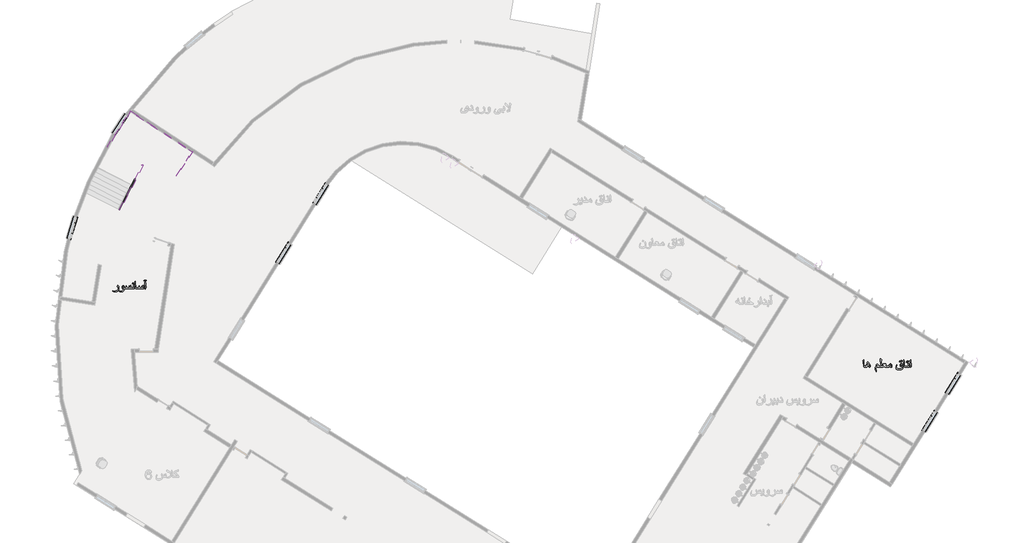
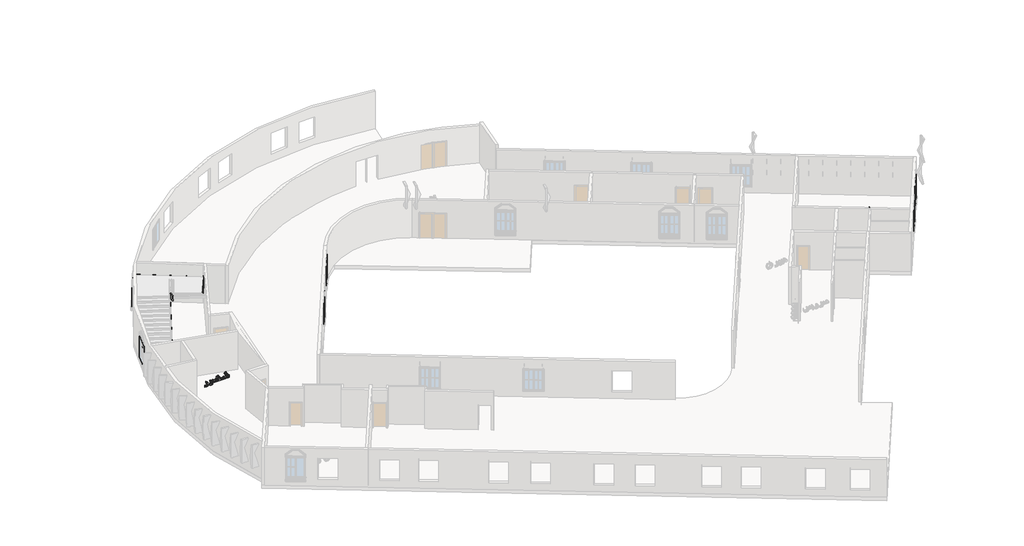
# One storey, part 10 of 12: 25 proxies, 6 members.
"""IFC4 building model written with IfcOpenShell, lengths in millimetres."""

from ifc_helpers import new_model, si_unit, point, frame, frame_2d, origin, origin_with_axes, place, context, project, spatial, polyline, circle_curve, trimmed, segment, composite_curve, outline, extrude, faceted_brep, transform, mapped, element, save
from components import m_muntin_pattern_2x2_m_muntin_pattern_2x2_d2d4b859, m_muntin_pattern_2x2_m_muntin_pattern_2x2_f3921bb5, m_trim_window_exterior_flat_with_sill_136e302d, m_trim_window_exterior_flat_with_sill_88aaac3a, m_trim_window_interior_flat_picture_frame_c6c50358, m_trim_window_interior_flat_picture_frame_896fcfd1

model = new_model("IFC4")

# Units and contexts
model_context = context("Model", 3, world=origin())
ifc_project = project(units=[si_unit("LENGTHUNIT", "METRE", prefix="MILLI")], contexts=[model_context])

# Site, building, storey
site = spatial("IfcSite", under=ifc_project)
building = spatial("IfcBuilding", under=site)
storey = spatial("IfcBuildingStorey", under=building, Name="\u200fهمکف", Elevation=0.0)

# Proxies
placement = place(None, origin())
element("IfcBuildingElementProxy", 1, Name="600mm Arial", ObjectType="600mm Arial", at=placement, inside=storey, context=model_context, shape_type="SweptSolid", body=[
    extrude(outline(polyline([(56388.7753031, -36264.6025631), (56385.1700596, -36289.471386), (56374.3543289, -36316.9889592), (56358.6457677, -36340.4966187), (56350.8190783, -36346.3735336), (56343.0107829, -36348.3325052), (56319.429547, -36344.1386504), (56281.6480661, -36331.5570862), (56211.750487, -36301.2436098), (56142.2943664, -36338.0318093), (56112.2751955, -36345.7573312), (56077.2528296, -36348.3325052), (56068.5708145, -36348.3325052), (56040.3174773, -36348.3325052), (56012.9470568, -36348.3325052), (55988.6668452, -36342.7774871), (55969.6841342, -36326.1124327), (55957.1393582, -36302.0897384), (55948.0526729, -36268.5756886), (55936.7219074, -36174.3978979), (55931.7922887, -36080.9558711), (55925.02326, -36008.2623889), (55913.7660709, -35967.7953694), (55903.3917987, -35949.6955752), (55889.6330121, -35933.9502258), (55941.430797, -35858.6079932), (55951.8418574, -35910.6265073), (55958.6476744, -35971.9156477), (55964.9752447, -36166.304494), (55973.9883536, -36223.9883908), (55986.3124004, -36256.3620064), (55998.2685652, -36268.833206), (56011.1812233, -36272.9902726), (56040.3174773, -36272.9902726), (56068.5708145, -36272.9902726), (56077.3999824, -36272.9902726), (56109.9207508, -36269.9000638), (56152.3007566, -36258.5692984), (56128.4620033, -36241.9410322), (56118.8602833, -36231.4196071), (56115.6597099, -36221.0453349), (56116.2483211, -36210.4503334), (56121.8401274, -36197.64804), (56163.1900637, -36123.9244881), (56178.3468019, -36103.1759436), (56197.3295128, -36094.0524701), (56178.1260727, -36077.5713567), (56171.724926, -36066.6820497), (56188.0588866, -36024.4491966), (56205.1286111, -35990.4569003), (56271.0530647, -36062.4146185), (56315.9714563, -36118.6637756), (56350.3684228, -36168.511786), (56379.173583, -36223.5101442), (56386.3748731, -36245.7945961), (56388.7753031, -36264.6025631)]), holes=[polyline([(56247.508617, -36180.2840098), (56245.7059952, -36164.9065424), (56240.2981299, -36153.207895), (56229.3720346, -36144.1579979), (56213.3691678, -36141.1413655), (56195.4533147, -36144.1947861), (56178.7882603, -36153.3550478), (56166.758519, -36166.8195288), (56162.7486053, -36182.7856074), (56165.8112229, -36191.6055782), (56174.9990757, -36201.7315301), (56211.750487, -36225.9013772), (56237.5022267, -36204.2699159), (56245.0070194, -36192.313751), (56247.508617, -36180.2840098)]), polyline([(56341.6864077, -36262.1009655), (56336.1313896, -36246.3188279), (56319.4663352, -36223.6940852), (56285.1797333, -36188.3774137), (56283.2299587, -36208.8500467), (56277.380635, -36227.88794), (56267.9996441, -36244.1299301), (56255.4548681, -36256.2148536), (56302.838069, -36268.5756886), (56330.6499479, -36272.9902726), (56338.5226226, -36269.8264874), (56341.6864077, -36262.1009655)])]), origin_with_axes(), (0.0, 0.0, 1.0), 150.0),
    extrude(outline(polyline([(57792.0243855, -36348.3325052), (57749.7915325, -36348.3325052), (57720.8760077, -36344.984779), (57688.5759685, -36334.9416006), (57651.4934634, -36316.2899834), (57619.1198478, -36291.8258307), (57595.0419712, -36318.7547928), (57570.485848, -36335.9716702), (57540.0068247, -36345.2422964), (57498.1602478, -36348.3325052), (57462.4021178, -36348.3325052), (57434.1487806, -36348.3325052), (57403.6881514, -36348.3325052), (57377.5685298, -36344.984779), (57351.0074497, -36334.9416006), (57323.4530883, -36315.7749486), (57304.6543183, -36290.3543028), (57274.8558767, -36313.3469275), (57241.0843095, -36330.5270166), (57194.510449, -36343.8811331), (57141.9033236, -36348.3325052), (57132.7798502, -36348.3325052), (57104.5265129, -36348.3325052), (56963.2598268, -36348.3325052), (56935.0064896, -36348.3325052), (56915.729473, -36348.3325052), (56853.6677804, -36351.5330786), (56799.9202209, -36361.1347986), (56772.4946182, -36370.1111193), (56752.9049019, -36380.8532736), (56741.1510722, -36393.3612614), (56737.233129, -36407.6350828), (56739.5323914, -36435.9252082), (56746.4301788, -36466.0547437), (56765.265737, -36529.0361412), (56772.4946182, -36559.607135), (56774.9042453, -36587.4558021), (56771.8140365, -36616.0770213), (56760.7775766, -36649.7014356), (56741.0591017, -36580.245315), (56713.5415285, -36480.3285651), (56699.5620126, -36416.0227923), (56705.0434544, -36368.6947736), (56711.8952565, -36349.7074642), (56721.4877796, -36333.8379546), (56733.922191, -36320.4516485), (56749.2996584, -36308.9139494), (56788.8837611, -36291.3843723), (56833.9493055, -36281.3411939), (56897.3353733, -36272.9902726), (56865.6975217, -36242.088185), (56844.9489771, -36229.9480791), (56823.906127, -36225.9013772), (56810.8463162, -36227.7775754), (56798.4486929, -36233.4061699), (56774.9042453, -36254.1547144), (56756.0686871, -36243.2654074), (56768.7606159, -36210.9653682), (56782.9976492, -36185.8758161), (56796.0758541, -36170.4247723), (56810.2944932, -36159.3883125), (56825.6535665, -36152.7664366), (56842.153074, -36150.5591446), (56866.8379559, -36155.8934335), (56891.4492613, -36171.8963003), (56911.8299239, -36193.0127268), (56932.6520448, -36221.0453349), (56963.2598268, -36272.9902726), (57085.6909548, -36272.9902726), (57038.6020594, -35915.9975845), (57019.7665012, -35905.2554302), (57025.6526132, -35851.1767769), (57043.3109489, -35802.1013188), (57057.4376176, -35806.6630555), (57062.9558475, -35827.4116), (57079.5105373, -35842.2740326), (57113.944292, -35858.6079932), (57110.9276597, -35904.3725134), (57103.7907489, -35940.7192545), (57085.6909548, -35933.9502258), (57132.7798502, -36263.7196463), (57132.7798502, -36272.9902726), (57142.0504764, -36272.9902726), (57175.7852554, -36271.1876508), (57206.9448604, -36265.7797855), (57240.7900039, -36254.9272666), (57274.0465363, -36239.145129), (57256.2410477, -36214.7177645), (57241.7097089, -36201.9154711), (57225.4861129, -36197.64804), (57211.8744791, -36201.1797071), (57198.7043037, -36216.4835981), (57189.2865246, -36216.4835981), (57189.2865246, -36191.761928), (57190.8040379, -36170.4707576), (57195.3565775, -36152.8032248), (57202.9441437, -36138.7593296), (57213.5667363, -36128.3390721), (57226.6357442, -36121.5792404), (57243.7698481, -36116.7507892), (57290.2333441, -36112.8880283), (57333.0548083, -36115.978237), (57367.0471047, -36125.2488633), (57384.0432529, -36134.4275191), (57396.1833587, -36145.7766787), (57403.4674222, -36159.296342), (57405.8954434, -36174.9865091), (57402.0694706, -36193.1230914), (57390.5915524, -36211.9218614), (57349.3887689, -36250.7702001), (57358.6410011, -36259.5257916), (57373.742557, -36266.6627023), (57404.1296098, -36272.9902726), (57434.1487806, -36272.9902726), (57462.4021178, -36272.9902726), (57495.805803, -36272.9902726), (57530.5706515, -36268.3549594), (57561.2887981, -36254.44902), (57582.4052247, -36237.0114135), (57601.6086648, -36213.8348478), (57629.0158735, -36180.68868), (57662.0884648, -36152.1778254), (57693.0273406, -36133.0111734), (57721.3910424, -36122.3058074), (57768.4799378, -36200.2967903), (57786.1382736, -36242.823949), (57792.0243855, -36276.5219397), (57792.0243855, -36348.3325052)]), holes=[polyline([(57744.9354901, -36266.9570079), (57727.8657656, -36214.2763062), (57701.8197203, -36169.3947027), (57684.8603603, -36176.3844606), (57670.7704799, -36187.6416497), (57650.7576994, -36216.4835981), (57668.1769118, -36235.8709793), (57691.5926008, -36253.1246448), (57717.2155818, -36266.1844557), (57741.2566702, -36272.9902726), (57744.9354901, -36266.9570079)])]), origin_with_axes(), (0.0, 0.0, 1.0), 150.0),
    extrude(outline(polyline([(58517.1933744, -36366.4322994), (58512.3005439, -36404.3609331), (58497.6220523, -36437.5071008), (58473.1578996, -36465.8708027), (58438.9080858, -36489.4520385), (58400.8506934, -36505.9975313), (58357.0175537, -36517.8157404), (58307.4086667, -36524.9066658), (58252.0240323, -36527.2703076), (58208.7703067, -36525.2193655), (58170.6853232, -36519.0665392), (58137.7690816, -36508.8118285), (58110.0215822, -36494.4552337), (58086.2656023, -36474.424059), (58069.2970453, -36450.0886651), (58059.1159111, -36421.4490517), (58055.7221997, -36388.5052191), (58059.290655, -36338.8411497), (58069.9960211, -36286.6754828), (58085.9253115, -36237.48966), (58107.5199846, -36188.2302609), (58121.6466532, -36195.5879008), (58103.6940118, -36246.0613105), (58089.4201904, -36297.7119427), (58083.9755369, -36350.5397972), (58086.8450165, -36375.2890584), (58095.4534551, -36396.5618348), (58109.800853, -36414.3581263), (58129.8872099, -36428.6779329), (58153.7535543, -36438.8498701), (58182.6782762, -36446.1155395), (58216.6613755, -36450.4749412), (58255.7028522, -36451.928075), (58298.8370162, -36450.1438474), (58339.2120651, -36444.7911643), (58376.8279992, -36435.8700259), (58411.6848182, -36423.3804322), (58445.4839765, -36405.4461849), (58469.6262324, -36384.6056699), (58484.111586, -36360.8588871), (58488.9400372, -36334.2058366), (58487.3949328, -36304.1866658), (58482.0238557, -36285.6454132), (58449.7973929, -36297.0497551), (58417.2766245, -36301.2436098), (58383.6889984, -36297.2336961), (58357.0911301, -36285.2039548), (58344.7302951, -36274.3422389), (58335.9011272, -36261.0341077), (58330.6036265, -36245.2795613), (58328.8377929, -36227.0785996), (58334.8342694, -36182.7856074), (58352.823699, -36140.5527543), (58366.9043823, -36120.20888), (58382.2174704, -36105.6775412), (58398.7629631, -36096.9587379), (58416.5408605, -36094.0524701), (58439.5426823, -36098.1267632), (58459.9877242, -36110.3496425), (58477.8759862, -36130.721108), (58493.2074683, -36159.2411597), (58503.7013022, -36188.0003346), (58511.1968979, -36218.9484075), (58515.6942553, -36252.0853782), (58517.1933744, -36287.4112468), (58517.1933744, -36366.4322994)]), holes=[polyline([(58452.7404489, -36214.423459), (58436.8479467, -36184.9928993), (58423.2363128, -36173.2942519), (58406.5344703, -36169.3947027), (58388.6554053, -36171.5836006), (58376.2209939, -36178.1502942), (58368.9369304, -36188.064714), (58366.5089092, -36200.2967903), (58369.6359061, -36210.9469741), (58379.016897, -36219.0587721), (58392.3710135, -36224.1907259), (58407.4173871, -36225.9013772), (58428.3866608, -36223.0318976), (58452.7404489, -36214.423459)])]), origin_with_axes(), (0.0, 0.0, 1.0), 150.0),
    extrude(outline(polyline([(58470.104479, -35930.8600171), (58440.8210722, -35990.4569003), (58375.9266883, -35955.8759927), (58405.9458591, -35896.2791095), (58470.104479, -35930.8600171)])), origin_with_axes(), (0.0, 0.0, 1.0), 150.0),
    extrude(outline(polyline([(58375.9266883, -35969.2668974), (58346.4961287, -36028.1280166), (58281.7488975, -35993.1056507), (58312.3566795, -35933.9502258), (58375.9266883, -35969.2668974)])), origin_with_axes(), (0.0, 0.0, 1.0), 150.0),
    extrude(outline(polyline([(58912.7400956, -36348.3325052), (58705.5489559, -36348.3325052), (58677.2956187, -36348.3325052), (58649.9251983, -36348.3325052), (58625.6449866, -36342.7774871), (58606.6622756, -36326.1124327), (58594.1174996, -36302.0897384), (58585.0308143, -36268.5756886), (58573.7000489, -36174.3978979), (58568.7704301, -36080.9558711), (58562.0014014, -36008.2623889), (58550.7442124, -35967.7953694), (58540.3699401, -35949.6955752), (58526.6111535, -35933.9502258), (58578.4089384, -35858.6079932), (58588.8199989, -35910.6265073), (58595.6258158, -35971.9156477), (58601.9533861, -36166.304494), (58610.966495, -36223.9883908), (58623.2905418, -36256.3620064), (58635.2467067, -36268.833206), (58648.1593647, -36272.9902726), (58677.2956187, -36272.9902726), (58705.5489559, -36272.9902726), (58884.4867584, -36272.9902726), (58881.8012198, -36231.0885133), (58873.7446041, -36200.4439431), (58860.9790989, -36179.3643048), (58837.397863, -36150.5591446), (58870.3600898, -36075.216912), (58891.5500927, -36109.6874549), (58903.028011, -36135.696712), (58910.3120745, -36179.2907284), (58912.7400956, -36244.4426298), (58912.7400956, -36348.3325052)])), origin_with_axes(), (0.0, 0.0, 1.0), 150.0),
    extrude(outline(polyline([(58903.3223166, -35949.6955752), (58874.0389097, -36009.2924584), (58809.1445258, -35974.7115509), (58839.1636966, -35915.1146677), (58903.3223166, -35949.6955752)])), origin_with_axes(), (0.0, 0.0, 1.0), 150.0),
    extrude(outline(polyline([(58809.1445258, -35988.1024555), (58779.7139662, -36046.9635747), (58714.966735, -36011.9412088), (58745.574517, -35952.785784), (58809.1445258, -35988.1024555)])), origin_with_axes(), (0.0, 0.0, 1.0), 150.0),
    extrude(outline(polyline([(59054.0067818, -36245.1783937), (59050.732632, -36276.5955161), (59040.9101827, -36306.9825689), (59011.6267759, -36357.7502843), (59004.269136, -36353.7771587), (59006.108546, -36326.9217731), (59006.9178864, -36306.5411105), (58998.8980589, -36190.2904001), (58979.6946188, -36034.4555869), (58964.5378805, -35933.9502258), (58987.3465642, -35896.4998387), (59011.6267759, -35858.6079932), (59029.3586881, -35983.1728368), (59046.2076835, -36125.6903217), (59054.0067818, -36245.1783937)])), origin_with_axes(), (0.0, 0.0, 1.0), 150.0),
])
element("IfcBuildingElementProxy", 2, Name="600mm Arial", ObjectType="600mm Arial", at=placement, inside=storey, context=model_context, shape_type="SweptSolid", body=[
    extrude(outline(polyline([(7242.398082, -31234.5029931), (7239.9516667, -31257.0725535), (7232.6124209, -31280.0467841), (7220.3803446, -31303.4256849), (7203.2554377, -31327.2092559), (7164.9221338, -31366.499053), (7118.2011204, -31399.9027382), (7074.2024338, -31421.8652933), (7038.7386095, -31429.186145), (7008.8665915, -31427.0524294), (6976.6401287, -31420.6512827), (6915.8660231, -31400.4913493), (6856.2691399, -31377.38836), (6863.1853214, -31361.7901635), (6920.7956418, -31375.2546445), (6975.0214479, -31382.0972496), (7002.0975628, -31380.0738986), (7029.7622888, -31374.0038457), (7058.015626, -31363.8870908), (7086.8575744, -31349.723634), (7135.6939093, -31316.2463724), (7176.8415105, -31274.9700126), (7193.1616755, -31252.9430781), (7204.8189362, -31232.0381838), (7211.8132926, -31212.2553295), (7214.1447448, -31193.5945153), (7209.1047614, -31161.6255699), (7193.9848114, -31128.1115201), (7174.3767011, -31100.0789121), (7148.2202912, -31071.3105401), (7171.7647389, -30995.9683074), (7202.2989445, -31026.870395), (7223.5625239, -31057.7724826), (7237.6891925, -31094.707835), (7242.398082, -31135.7634656), (7242.398082, -31234.5029931)])), origin_with_axes(), (0.0, 0.0, 1.0), 150.0),
    extrude(outline(polyline([(8250.1004432, -31231.4127844), (8042.9093035, -31231.4127844), (8014.6559663, -31231.4127844), (8011.8600631, -31231.4127844), (7987.9293393, -31229.5181921), (7967.6406473, -31223.8344153), (7949.9639174, -31214.6925477), (7933.8690801, -31202.4236831), (7916.2475326, -31215.7410114), (7901.0540062, -31223.6136861), (7876.8105827, -31229.4630098), (7844.9887901, -31231.4127844), (7818.9427448, -31231.4127844), (7798.1574121, -31229.2422806), (7777.298503, -31222.7307693), (7743.747665, -31204.1895167), (7724.562619, -31217.341298), (7707.0330419, -31225.6002488), (7685.0888809, -31229.9596505), (7652.660083, -31231.4127844), (7598.0528404, -31231.4127844), (7597.1742811, -31241.6582979), (7587.8760637, -31277.6923394), (7572.3790346, -31313.6160162), (7550.683194, -31349.4293284), (7522.0251865, -31384.3229357), (7491.2334635, -31409.2469408), (7458.308025, -31424.2013439), (7423.2488708, -31429.186145), (7396.0623914, -31427.1995822), (7368.0665716, -31421.2398939), (7314.0614947, -31401.2271133), (7261.2336402, -31377.38836), (7268.1498217, -31362.820233), (7315.6801754, -31375.4753737), (7360.4146261, -31382.0972496), (7384.740823, -31380.4601747), (7408.4232264, -31375.5489501), (7431.4618364, -31367.3635757), (7453.8566528, -31355.9040515), (7488.2904076, -31330.6305585), (7522.7241623, -31296.0128627), (7572.0203497, -31231.4127844), (7524.0485375, -31226.740683), (7505.2497676, -31220.9005563), (7489.9090884, -31212.724379), (7476.389425, -31200.3359528), (7466.7325227, -31184.50783), (7460.9383812, -31165.2400105), (7459.0070008, -31142.5324943), (7463.9366195, -31099.2695717), (7478.7254757, -31059.2440106), (7490.9115668, -31039.8014472), (7504.6611564, -31025.9139019), (7519.9742444, -31017.5813747), (7536.8508309, -31014.8038656), (7553.4055207, -31017.5721776), (7567.4586129, -31025.8771137), (7579.0101076, -31039.7186737), (7588.0600047, -31059.0968578), (7597.2202664, -31100.5203705), (7600.2736869, -31156.0705517), (7653.8373054, -31156.0705517), (7683.267865, -31154.4886592), (7702.98634, -31149.7429814), (7713.7376913, -31143.1394996), (7721.4172279, -31133.9240556), (7726.0249499, -31122.0966495), (7727.5608572, -31107.6572812), (7726.5307877, -31081.2433539), (7722.7048149, -31051.5920651), (7736.8314835, -31024.2216447), (7755.3727361, -31085.2900559), (7768.9107935, -31114.5366745), (7783.6260733, -31135.46916), (7804.0067358, -31150.9202038), (7828.0662183, -31156.0705517), (7855.1423332, -31156.0705517), (7881.482684, -31153.4585896), (7899.8767838, -31145.6227031), (7912.0168896, -31130.1716593), (7916.0635916, -31107.6572812), (7914.7392164, -31080.2868607), (7911.0603964, -31051.5920651), (7925.1870651, -31024.2216447), (7933.8690801, -31067.4845673), (7946.3034916, -31110.8578545), (7961.2395006, -31138.5593688), (7977.720614, -31151.692756), (7999.2049225, -31156.0705517), (8009.3032832, -31154.1391713), (8017.2311402, -31148.3450298), (8022.3630941, -31139.5342561), (8024.0737454, -31128.5529785), (8019.769526, -31101.6608047), (8006.856868, -31073.3706792), (7986.402629, -31043.0572028), (8009.9470767, -30995.9683074), (8024.5519919, -31021.7200471), (8033.6386772, -31043.645814), (8040.5916469, -31078.9992738), (8042.9093035, -31124.4327002), (8042.9093035, -31156.0705517), (8221.847106, -31156.0705517), (8219.1615674, -31114.1687925), (8211.1049517, -31083.5242223), (8198.3394465, -31062.444584), (8174.7582106, -31033.6394238), (8207.7204373, -30958.2971911), (8228.9104403, -30992.7677341), (8240.3883585, -31018.7769911), (8247.672422, -31062.3710076), (8250.1004432, -31127.5229089), (8250.1004432, -31231.4127844)]), holes=[polyline([(7572.0203497, -31156.0705517), (7562.308265, -31123.5865716), (7550.8303468, -31102.9483916), (7538.7638173, -31093.3466716), (7524.3428431, -31090.1460982), (7513.8949944, -31091.9855082), (7504.9186738, -31097.5037381), (7498.7382562, -31105.8178712), (7496.6781171, -31116.0449907), (7501.092701, -31133.3722326), (7514.3364528, -31145.9170087), (7537.5865949, -31153.532166), (7572.0203497, -31156.0705517)])]), origin_with_axes(), (0.0, 0.0, 1.0), 150.0),
    extrude(outline(polyline([(8212.4293269, -30851.9057181), (8181.8215449, -30911.2082958), (8118.2515361, -30876.774541), (8147.2406373, -30817.030505), (8212.4293269, -30851.9057181)])), origin_with_axes(), (0.0, 0.0, 1.0), 150.0),
    extrude(outline(polyline([(9022.3583275, -31128.2586729), (9019.0841777, -31159.6757953), (9009.2617284, -31190.0628481), (8979.9783216, -31240.8305634), (8972.6206817, -31236.8574379), (8974.4600917, -31210.0020522), (8975.2694321, -31189.6213897), (8967.2496046, -31073.3706792), (8948.0461644, -30917.5358661), (8932.8894262, -30817.030505), (8955.6981099, -30779.5801179), (8979.9783216, -30741.6882724), (8997.7102338, -30866.2531159), (9014.5592292, -31008.7706009), (9022.3583275, -31128.2586729)])), origin_with_axes(), (0.0, 0.0, 1.0), 150.0),
    extrude(outline(polyline([(9041.1938856, -30662.2257614), (9026.7545173, -30680.9693491), (9010.2182216, -30693.9371894), (8990.370988, -30701.4971644), (8965.9988058, -30704.0171561), (8953.0493596, -30702.9135101), (8939.8056077, -30700.1911833), (8911.4051177, -30694.599377), (8897.2784491, -30697.7631622), (8886.3891421, -30704.0171561), (8881.0916413, -30699.4554193), (8897.7199075, -30675.6902424), (8907.5055686, -30668.6820904), (8917.4383824, -30666.3460398), (8928.1805367, -30667.7439913), (8949.811998, -30671.9378461), (8965.9988058, -30674.6601729), (8980.5669328, -30675.7638188), (9009.9974924, -30670.1720125), (9035.8963849, -30656.9282607), (9041.1938856, -30662.2257614)])), origin_with_axes(), (0.0, 0.0, 1.0), 150.0),
    extrude(outline(polyline([(8881.0916413, -31231.4127844), (8850.0424009, -31231.4127844), (8826.1116771, -31229.5181921), (8805.8229851, -31223.8344153), (8788.1462552, -31214.6925477), (8772.0514179, -31202.4236831), (8754.4298704, -31215.7410114), (8739.236344, -31223.6136861), (8714.9929205, -31229.4630098), (8683.1711279, -31231.4127844), (8657.1250827, -31231.4127844), (8636.3397499, -31229.2422806), (8615.4808408, -31222.7307693), (8581.9300028, -31204.1895167), (8562.7449568, -31217.341298), (8545.2153797, -31225.6002488), (8523.2712187, -31229.9596505), (8490.8424208, -31231.4127844), (8438.4560247, -31231.4127844), (8410.2026875, -31231.4127844), (8382.8322671, -31231.4127844), (8358.5520554, -31225.8577662), (8339.5693444, -31209.1927119), (8327.0245684, -31185.1700176), (8317.9378831, -31151.6559678), (8306.6071177, -31057.478177), (8301.6774989, -30964.0361503), (8294.9084702, -30891.342668), (8283.6512812, -30850.8756485), (8273.2770089, -30832.7758544), (8259.5182223, -30817.030505), (8311.3160072, -30741.6882724), (8321.7270677, -30793.7067865), (8328.5328846, -30854.9959269), (8334.8604549, -31049.3847731), (8343.8735638, -31107.06867), (8356.1976106, -31139.4422856), (8368.1537754, -31151.9134852), (8381.0664335, -31156.0705517), (8410.2026875, -31156.0705517), (8438.4560247, -31156.0705517), (8492.0196432, -31156.0705517), (8521.4502028, -31154.4886592), (8541.1686778, -31149.7429814), (8551.9200291, -31143.1394996), (8559.5995657, -31133.9240556), (8564.2072877, -31122.0966495), (8565.7431951, -31107.6572812), (8564.7131255, -31081.2433539), (8560.8871527, -31051.5920651), (8575.0138213, -31024.2216447), (8593.5550739, -31085.2900559), (8607.0931313, -31114.5366745), (8621.8084111, -31135.46916), (8642.1890737, -31150.9202038), (8666.2485561, -31156.0705517), (8693.324671, -31156.0705517), (8719.6650218, -31153.4585896), (8738.0591216, -31145.6227031), (8750.1992274, -31130.1716593), (8754.2459294, -31107.6572812), (8752.9215542, -31080.2868607), (8749.2427342, -31051.5920651), (8763.3694029, -31024.2216447), (8772.0514179, -31067.4845673), (8784.4858294, -31110.8578545), (8799.4218384, -31138.5593688), (8815.9029518, -31151.692756), (8837.3872603, -31156.0705517), (8847.4856211, -31154.1391713), (8855.4134781, -31148.3450298), (8860.5454319, -31139.5342561), (8862.2560832, -31128.5529785), (8857.9518638, -31101.6608047), (8845.0392058, -31073.3706792), (8824.5849669, -31043.0572028), (8848.1294146, -30995.9683074), (8862.7343298, -31021.7200471), (8871.821015, -31043.645814), (8878.7739848, -31078.9992738), (8881.0916413, -31124.4327002), (8881.0916413, -31231.4127844)])), origin_with_axes(), (0.0, 0.0, 1.0), 150.0),
])
m_muntin_pattern_2x2_m_muntin_pattern_2x2_shape = m_muntin_pattern_2x2_m_muntin_pattern_2x2_d2d4b859(model_context)
element("IfcBuildingElementProxy", 3, Name="M_Muntin Pattern_2x2 : M_Muntin Pattern_2x2", ObjectType="M_Muntin Pattern_2x2 : M_Muntin Pattern_2x2", at=placement, inside=storey, context=model_context, shape_type="MappedRepresentation", body=[
    mapped(m_muntin_pattern_2x2_m_muntin_pattern_2x2_shape, transform((7597.6576268, -20231.7702749, 669.85), x_axis=(-0.5493381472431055, -0.8356001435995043, 0.0), y_axis=(0.8356001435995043, -0.5493381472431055, 0.0), z_axis=(0.0, 0.0, 1.0))),
])
element("IfcBuildingElementProxy", 4, Name="M_Muntin Pattern_2x2 : M_Muntin Pattern_2x2", ObjectType="M_Muntin Pattern_2x2 : M_Muntin Pattern_2x2", at=placement, inside=storey, context=model_context, shape_type="MappedRepresentation", body=[
    mapped(m_muntin_pattern_2x2_m_muntin_pattern_2x2_shape, transform((4384.731097, -26924.4898344, 669.85), x_axis=(-0.2820402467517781, -0.959402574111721, 0.0), y_axis=(0.959402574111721, -0.2820402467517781, 0.0), z_axis=(0.0, 0.0, 1.0))),
])
element("IfcBuildingElementProxy", 5, Name="M_Muntin Pattern_2x2 : M_Muntin Pattern_2x2", ObjectType="M_Muntin Pattern_2x2 : M_Muntin Pattern_2x2", at=placement, inside=storey, context=model_context, shape_type="MappedRepresentation", body=[
    mapped(m_muntin_pattern_2x2_m_muntin_pattern_2x2_shape, transform((17759.3599251, -29127.2472624, 669.85), x_axis=(0.5299192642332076, 0.8480480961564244, 0.0), y_axis=(-0.8480480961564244, 0.5299192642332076, 0.0), z_axis=(0.0, 0.0, 1.0))),
])
element("IfcBuildingElementProxy", 6, Name="M_Muntin Pattern_2x2 : M_Muntin Pattern_2x2", ObjectType="M_Muntin Pattern_2x2 : M_Muntin Pattern_2x2", at=placement, inside=storey, context=model_context, shape_type="MappedRepresentation", body=[
    mapped(m_muntin_pattern_2x2_m_muntin_pattern_2x2_shape, transform((20174.2020122, -25262.6920883, 669.85), x_axis=(0.5299192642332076, 0.8480480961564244, 0.0), y_axis=(-0.8480480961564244, 0.5299192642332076, 0.0), z_axis=(0.0, 0.0, 1.0))),
])
element("IfcBuildingElementProxy", 7, Name="M_Muntin Pattern_2x2 : M_Muntin Pattern_2x2", ObjectType="M_Muntin Pattern_2x2 : M_Muntin Pattern_2x2", at=placement, inside=storey, context=model_context, shape_type="MappedRepresentation", body=[
    mapped(m_muntin_pattern_2x2_m_muntin_pattern_2x2_shape, transform((61533.8070281, -37664.4078714, 669.85), x_axis=(0.5299192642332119, 0.8480480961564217, 0.0), y_axis=(-0.8480480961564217, 0.5299192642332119, 0.0), z_axis=(0.0, 0.0, 1.0))),
])
m_muntin_pattern_2x2_m_muntin_pattern_2x2_2_shape = m_muntin_pattern_2x2_m_muntin_pattern_2x2_f3921bb5(model_context)
element("IfcBuildingElementProxy", 8, Name="M_Muntin Pattern_2x2 : M_Muntin Pattern_2x2", ObjectType="M_Muntin Pattern_2x2 : M_Muntin Pattern_2x2", at=placement, inside=storey, context=model_context, shape_type="MappedRepresentation", body=[
    mapped(m_muntin_pattern_2x2_m_muntin_pattern_2x2_2_shape, transform((7214.8650724, -20814.037345, 669.85), x_axis=(0.5493381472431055, 0.8356001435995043, 0.0), y_axis=(-0.8356001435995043, 0.5493381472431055, 0.0), z_axis=(0.0, 0.0, 1.0))),
])
element("IfcBuildingElementProxy", 9, Name="M_Muntin Pattern_2x2 : M_Muntin Pattern_2x2", ObjectType="M_Muntin Pattern_2x2 : M_Muntin Pattern_2x2", at=placement, inside=storey, context=model_context, shape_type="MappedRepresentation", body=[
    mapped(m_muntin_pattern_2x2_m_muntin_pattern_2x2_2_shape, transform((4188.1984021, -27593.0255331, 669.85), x_axis=(0.2820402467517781, 0.959402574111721, 0.0), y_axis=(-0.959402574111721, 0.2820402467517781, 0.0), z_axis=(0.0, 0.0, 1.0))),
])
element("IfcBuildingElementProxy", 10, Name="M_Muntin Pattern_2x2 : M_Muntin Pattern_2x2", ObjectType="M_Muntin Pattern_2x2 : M_Muntin Pattern_2x2", at=placement, inside=storey, context=model_context, shape_type="MappedRepresentation", body=[
    mapped(m_muntin_pattern_2x2_m_muntin_pattern_2x2_2_shape, transform((18128.6209164, -28536.3061478, 669.85), x_axis=(-0.5299192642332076, -0.8480480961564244, 0.0), y_axis=(0.8480480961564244, -0.5299192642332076, 0.0), z_axis=(0.0, 0.0, 1.0))),
])
element("IfcBuildingElementProxy", 11, Name="M_Muntin Pattern_2x2 : M_Muntin Pattern_2x2", ObjectType="M_Muntin Pattern_2x2 : M_Muntin Pattern_2x2", at=placement, inside=storey, context=model_context, shape_type="MappedRepresentation", body=[
    mapped(m_muntin_pattern_2x2_m_muntin_pattern_2x2_2_shape, transform((20543.4630035, -24671.7509736, 669.85), x_axis=(-0.5299192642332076, -0.8480480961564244, 0.0), y_axis=(0.8480480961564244, -0.5299192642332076, 0.0), z_axis=(0.0, 0.0, 1.0))),
])
element("IfcBuildingElementProxy", 12, Name="M_Muntin Pattern_2x2 : M_Muntin Pattern_2x2", ObjectType="M_Muntin Pattern_2x2 : M_Muntin Pattern_2x2", at=placement, inside=storey, context=model_context, shape_type="MappedRepresentation", body=[
    mapped(m_muntin_pattern_2x2_m_muntin_pattern_2x2_2_shape, transform((60366.3021532, -39532.8062357, 669.85), x_axis=(-0.5299192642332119, -0.8480480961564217, 0.0), y_axis=(0.8480480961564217, -0.5299192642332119, 0.0), z_axis=(0.0, 0.0, 1.0))),
])
element("IfcBuildingElementProxy", 13, Name="M_Muntin Pattern_2x2 : M_Muntin Pattern_2x2", ObjectType="M_Muntin Pattern_2x2 : M_Muntin Pattern_2x2", at=placement, inside=storey, context=model_context, shape_type="MappedRepresentation", body=[
    mapped(m_muntin_pattern_2x2_m_muntin_pattern_2x2_2_shape, transform((61903.0680194, -37073.4667568, 669.85), x_axis=(-0.5299192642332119, -0.8480480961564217, 0.0), y_axis=(0.8480480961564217, -0.5299192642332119, 0.0), z_axis=(0.0, 0.0, 1.0))),
])
m_trim_window_exterior_flat_with_sill_shape = m_trim_window_exterior_flat_with_sill_136e302d(model_context)
element("IfcBuildingElementProxy", 14, Name="M_Trim-Window-Exterior-Flat : with Sill", ObjectType="M_Trim-Window-Exterior-Flat : with Sill", at=placement, inside=storey, context=model_context, shape_type="MappedRepresentation", body=[
    mapped(m_trim_window_exterior_flat_with_sill_shape, transform((7414.220441, -20528.1362558, 2400.0), x_axis=(0.5493381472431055, 0.8356001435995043, 0.0), y_axis=(0.0, 0.0, 1.0), z_axis=(0.8356001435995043, -0.5493381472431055, 0.0))),
])
element("IfcBuildingElementProxy", 15, Name="M_Trim-Window-Exterior-Flat : with Sill", ObjectType="M_Trim-Window-Exterior-Flat : with Sill", at=placement, inside=storey, context=model_context, shape_type="MappedRepresentation", body=[
    mapped(m_trim_window_exterior_flat_with_sill_shape, transform((4295.6030591, -27261.4441171, 2400.0), x_axis=(0.2820402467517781, 0.959402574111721, 0.0), y_axis=(0.0, 0.0, 1.0), z_axis=(0.959402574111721, -0.2820402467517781, 0.0))),
])
m_trim_window_exterior_flat_with_sill_2_shape = m_trim_window_exterior_flat_with_sill_88aaac3a(model_context)
element("IfcBuildingElementProxy", 16, Name="M_Trim-Window-Exterior-Flat : with Sill", ObjectType="M_Trim-Window-Exterior-Flat : with Sill", at=placement, inside=storey, context=model_context, shape_type="MappedRepresentation", body=[
    mapped(m_trim_window_exterior_flat_with_sill_2_shape, transform((17935.9127627, -28826.7292241, 2400.0), x_axis=(0.5299192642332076, 0.8480480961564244, 0.0), y_axis=(0.0, 0.0, -1.0), z_axis=(-0.8480480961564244, 0.5299192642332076, 0.0))),
])
element("IfcBuildingElementProxy", 17, Name="M_Trim-Window-Exterior-Flat : with Sill", ObjectType="M_Trim-Window-Exterior-Flat : with Sill", at=placement, inside=storey, context=model_context, shape_type="MappedRepresentation", body=[
    mapped(m_trim_window_exterior_flat_with_sill_2_shape, transform((20350.7548498, -24962.17405, 2400.0), x_axis=(0.5299192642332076, 0.8480480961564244, 0.0), y_axis=(0.0, 0.0, -1.0), z_axis=(-0.8480480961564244, 0.5299192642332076, 0.0))),
])
element("IfcBuildingElementProxy", 18, Name="M_Trim-Window-Exterior-Flat : with Sill", ObjectType="M_Trim-Window-Exterior-Flat : with Sill", at=placement, inside=storey, context=model_context, shape_type="MappedRepresentation", body=[
    mapped(m_trim_window_exterior_flat_with_sill_2_shape, transform((60173.5939994, -39823.229312, 2400.0), x_axis=(0.5299192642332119, 0.8480480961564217, 0.0), y_axis=(0.0, 0.0, -1.0), z_axis=(-0.8480480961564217, 0.5299192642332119, 0.0))),
])
element("IfcBuildingElementProxy", 19, Name="M_Trim-Window-Exterior-Flat : with Sill", ObjectType="M_Trim-Window-Exterior-Flat : with Sill", at=placement, inside=storey, context=model_context, shape_type="MappedRepresentation", body=[
    mapped(m_trim_window_exterior_flat_with_sill_2_shape, transform((61710.3598657, -37363.8898331, 2400.0), x_axis=(0.5299192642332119, 0.8480480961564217, 0.0), y_axis=(0.0, 0.0, -1.0), z_axis=(-0.8480480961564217, 0.5299192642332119, 0.0))),
])
m_trim_window_interior_flat_picture_frame_shape = m_trim_window_interior_flat_picture_frame_c6c50358(model_context)
element("IfcBuildingElementProxy", 20, Name="M_Trim-Window-Interior-Flat : Picture Frame", ObjectType="M_Trim-Window-Interior-Flat : Picture Frame", at=placement, inside=storey, context=model_context, shape_type="MappedRepresentation", body=[
    mapped(m_trim_window_interior_flat_picture_frame_shape, transform((7247.1004122, -20418.2686263, 2400.0), x_axis=(-0.5493381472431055, -0.8356001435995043, 0.0), y_axis=(0.0, 0.0, 1.0), z_axis=(-0.8356001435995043, 0.5493381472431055, 0.0))),
])
element("IfcBuildingElementProxy", 21, Name="M_Trim-Window-Interior-Flat : Picture Frame", ObjectType="M_Trim-Window-Interior-Flat : Picture Frame", at=placement, inside=storey, context=model_context, shape_type="MappedRepresentation", body=[
    mapped(m_trim_window_interior_flat_picture_frame_shape, transform((4103.7225442, -27205.0360677, 2400.0), x_axis=(-0.2820402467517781, -0.959402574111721, 0.0), y_axis=(0.0, 0.0, 1.0), z_axis=(-0.959402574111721, 0.2820402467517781, 0.0))),
])
m_trim_window_interior_flat_picture_frame_2_shape = m_trim_window_interior_flat_picture_frame_896fcfd1(model_context)
element("IfcBuildingElementProxy", 22, Name="M_Trim-Window-Interior-Flat : Picture Frame", ObjectType="M_Trim-Window-Interior-Flat : Picture Frame", at=placement, inside=storey, context=model_context, shape_type="MappedRepresentation", body=[
    mapped(m_trim_window_interior_flat_picture_frame_2_shape, transform((18105.5223819, -28932.713077, 2400.0), x_axis=(-0.5299192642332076, -0.8480480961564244, 0.0), y_axis=(0.0, 0.0, -1.0), z_axis=(0.8480480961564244, -0.5299192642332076, 0.0))),
])
element("IfcBuildingElementProxy", 23, Name="M_Trim-Window-Interior-Flat : Picture Frame", ObjectType="M_Trim-Window-Interior-Flat : Picture Frame", at=placement, inside=storey, context=model_context, shape_type="MappedRepresentation", body=[
    mapped(m_trim_window_interior_flat_picture_frame_2_shape, transform((20520.364469, -25068.1579028, 2400.0), x_axis=(-0.5299192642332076, -0.8480480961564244, 0.0), y_axis=(0.0, 0.0, -1.0), z_axis=(0.8480480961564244, -0.5299192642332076, 0.0))),
])
element("IfcBuildingElementProxy", 24, Name="M_Trim-Window-Interior-Flat : Picture Frame", ObjectType="M_Trim-Window-Interior-Flat : Picture Frame", at=placement, inside=storey, context=model_context, shape_type="MappedRepresentation", body=[
    mapped(m_trim_window_interior_flat_picture_frame_2_shape, transform((60343.2036186, -39929.2131648, 2400.0), x_axis=(-0.5299192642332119, -0.8480480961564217, 0.0), y_axis=(0.0, 0.0, -1.0), z_axis=(0.8480480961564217, -0.5299192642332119, 0.0))),
])
element("IfcBuildingElementProxy", 25, Name="M_Trim-Window-Interior-Flat : Picture Frame", ObjectType="M_Trim-Window-Interior-Flat : Picture Frame", at=placement, inside=storey, context=model_context, shape_type="MappedRepresentation", body=[
    mapped(m_trim_window_interior_flat_picture_frame_2_shape, transform((61879.9694849, -37469.873686, 2400.0), x_axis=(-0.5299192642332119, -0.8480480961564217, 0.0), y_axis=(0.0, 0.0, -1.0), z_axis=(0.8480480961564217, -0.5299192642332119, 0.0))),
])

# Members
element("IfcMember", 26, ObjectType="Stringer - 50mm Width", at=placement, inside=storey, context=model_context, shape_type="SweptSolid", body=[
    extrude(outline(composite_curve([segment(trimmed(circle_curve(frame_2d((28463.2186017, -34366.1157481)), 25200.0), [point((8007.113091, -19649.1953048))], [point((6525.4431115, -21965.5509809))], True, "CARTESIAN"), True, "CONTINUOUS"), segment(polyline([(6525.4431115, -21965.5509809), (6481.9157792, -21940.9466858)]), True, "CONTINUOUS"), segment(trimmed(circle_curve(frame_2d((28463.2186017, -34366.1157481)), 25250.0), [point((6481.9157792, -21940.9466858))], [point((7965.2325341, -19621.7925296))], False, "CARTESIAN"), True, "CONTINUOUS"), segment(polyline([(7965.2325341, -19621.7925296), (8007.113091, -19649.1953048)]), True, "CONTINUOUS")], self_intersect=False)), frame((0.0, 0.0, 1873.6842105), z_axis=(0.0, 0.0, 1.0), x_axis=(1.0, 0.0, 0.0)), (0.0, 0.0, 1.0), 400.0),
])
element("IfcMember", 27, ObjectType="Stringer - 50mm Width", at=placement, inside=storey, context=model_context, shape_type="SweptSolid", body=[
    extrude(outline(composite_curve([segment(trimmed(circle_curve(frame_2d((28419.6912693, -34341.5114529)), 25200.0), [point((7965.4819455, -19621.9557214))], [point((7994.7578384, -19581.3592063))], False, "CARTESIAN"), True, "CONTINUOUS"), segment(polyline([(7994.7578384, -19581.3592063), (12039.8088932, -22228.0676747)]), True, "CONTINUOUS"), segment(trimmed(circle_curve(frame_2d((29284.4488792, -34638.3554793)), 21246.0078989), [point((12039.8088932, -22228.0676747))], [point((12010.6232883, -22268.7232659))], True, "CARTESIAN"), True, "CONTINUOUS"), segment(polyline([(12010.6232883, -22268.7232659), (7965.4819455, -19621.9557214)]), True, "CONTINUOUS")], self_intersect=False)), frame((0.0, 0.0, 1923.6842105), z_axis=(0.0, 0.0, 1.0), x_axis=(1.0, 0.0, 0.0)), (0.0, 0.0, 1.0), 400.0),
])
element("IfcMember", 28, ObjectType="Stringer - 50mm Width", at=placement, inside=storey, context=model_context, shape_type="SweptSolid", body=[
    extrude(outline(composite_curve([segment(trimmed(circle_curve(frame_2d((29284.4488792, -34638.3554793)), 21246.0078989), [point((11000.444738, -23817.6325735))], [point((12039.8088932, -22228.0676747))], False, "CARTESIAN"), True, "CONTINUOUS"), segment(polyline([(12039.8088932, -22228.0676747), (12081.6899002, -22255.4707443)]), True, "CONTINUOUS"), segment(trimmed(circle_curve(frame_2d((29284.4488792, -34638.3554793)), 21196.0078989), [point((12081.6899002, -22255.4707443))], [point((11043.4740078, -23843.097882))], True, "CARTESIAN"), True, "CONTINUOUS"), segment(polyline([(11043.4740078, -23843.097882), (11000.444738, -23817.6325735)]), True, "CONTINUOUS")], self_intersect=False)), frame((0.0, 0.0, 1873.6842105), z_axis=(0.0, 0.0, 1.0), x_axis=(1.0, 0.0, 0.0)), (0.0, 0.0, 1.0), 400.0),
])
element("IfcMember", 29, ObjectType="Stringer - 50mm Width", at=placement, inside=storey, context=model_context, shape_type="Brep", body=[
    faceted_brep([(7282.03561, -26052.1421789, 0.0), (7237.6463466, -26029.1292848, 0.0), (7409.1285193, -25698.3596172, 0.0), (7453.5177827, -25721.3725113, 0.0), (7282.03561, -26052.1421789, 237.7896526), (7237.6463466, -26029.1292848, 237.7896526), (8778.1099044, -23166.3844965, 2290.6776449), (8733.5337757, -23143.7320443, 2290.4212315), (8733.5337757, -23143.7320443, 1817.3266249), (8778.1099044, -23166.3844965, 1817.5830382)], [[[0, 1, 2, 3]], [[4, 5, 1, 0]], [[5, 4, 6, 7]], [[1, 5, 7, 8, 2]], [[4, 0, 3, 9, 6]], [[2, 8, 9, 3]], [[6, 9, 8, 7]]]),
])
element("IfcMember", 30, ObjectType="Stringer - 50mm Width", at=placement, inside=storey, context=model_context, shape_type="SweptSolid", body=[
    extrude(outline(polyline([(8733.5337757, -23143.7320443), (8756.5474285, -23099.3413175), (8801.1235572, -23121.9937697), (8778.1099044, -23166.3844965), (8733.5337757, -23143.7320443)])), frame((0.0, 0.0, 1923.6842105), z_axis=(0.0, 0.0, 1.0), x_axis=(1.0, 0.0, 0.0)), (0.0, 0.0, 1.0), 400.0),
])
element("IfcMember", 31, ObjectType="Stringer - 50mm Width", at=placement, inside=storey, context=model_context, shape_type="Brep", body=[
    faceted_brep([(7282.4093405, -26051.4212951, 4595.6843894), (7282.4093405, -26051.4212951, 4122.5897828), (7326.7986039, -26074.4341892, 4122.5897828), (7326.7986039, -26074.4341892, 4595.6843894), (8845.6996858, -23144.6462219, 2511.4738631), (8801.1235572, -23121.9937697, 2511.7302764), (8845.6996858, -23144.6462219, 2038.3792565), (8801.1235572, -23121.9937697, 2038.6356698)], [[[0, 1, 2, 3]], [[4, 5, 0, 3]], [[6, 4, 3, 2]], [[7, 6, 2, 1]], [[5, 7, 1, 0]], [[5, 4, 6, 7]]]),
])

save(model, "model.ifc")
